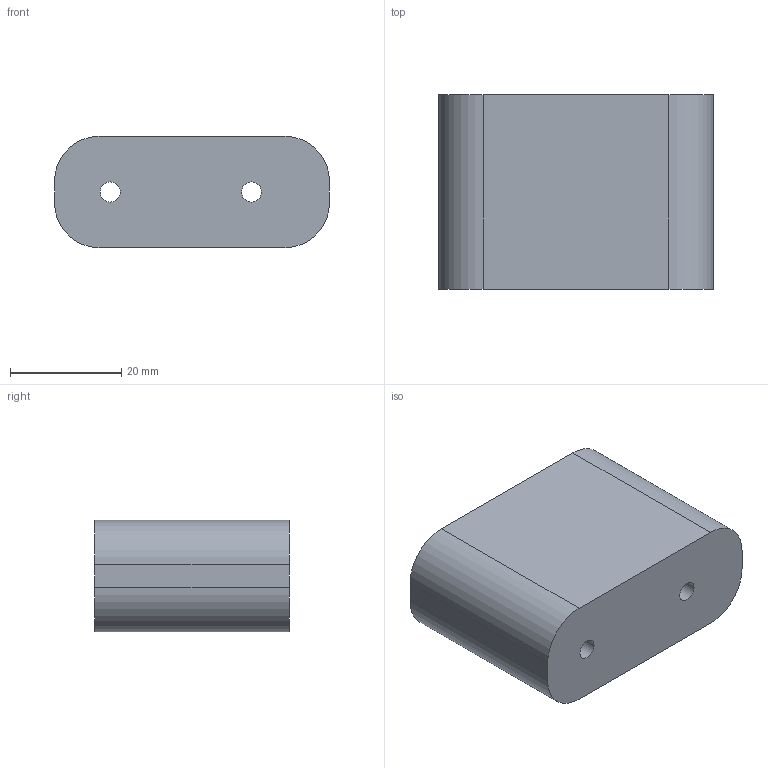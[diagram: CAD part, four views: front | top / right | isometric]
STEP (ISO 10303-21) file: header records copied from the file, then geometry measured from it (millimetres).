
FILE_DESCRIPTION(('STEP AP242 Edition 2','STEP AP242 Edition 2''CAx-IF Rec.Pracs.---Representation and Presentation of Product Manufacturing Information (PMI)---4.0---2014-10-13','STEP AP242 Edition 2''CAx-IF Rec.Pracs.---Representation and Presentation of Product Manufacturing Information (PMI)---4.0---2014-10-13''CAx-IF Rec.Pracs.---3D Tessellated Geometry---0.4---2014-09-14','STEP AP242 Edition 2''CAx-IF Rec.Pracs.---Representation and Presentation of Product Manufacturing Information (PMI)---4.0---2014-10-13''CAx-IF Rec.Pracs.---3D Tessellated Geometry---0.4---2014-09-14''2;1','STEP AP242 Edition 2''CAx-IF Rec.Pracs.---Representation and Presentation of Product Manufacturing Information (PMI)---4.0---2014-10-13''CAx-IF Rec.Pracs.---3D Tessellated Geometry---0.4---2014-09-14''2;1''CAx-IF Rec.Pracs.---User Defined Attributes---1.5---2016-08-15'),'2;1');
FILE_NAME('/vol/tmp/translate-7214305331587419635/bigPotConnector - cChannelConnector.step','2026-03-05T22:40:28',(''),(''),'ST-DEVELOPER v20','ONSHAPE BY PTC INC, 1.211',' ');
FILE_SCHEMA(('AP242_MANAGED_MODEL_BASED_3D_ENGINEERING_MIM_LF { 1 0 10303 442 3 1 4 }'));
Length unit declared in the file: metre
Products named in the file (1): cChannelConnector
Bounding box: 49.4 x 35 x 20 mm (x, y, z)
Volume: 31346.4 mm3; surface area: 7514.6 mm2
Topology: 1 solids, 1 shells, 16 faces, 36 edges, 24 vertices
Faces by surface type: plane 8, cylinder 8
Full cylindrical faces by diameter (mm): 3.6 x2, 4.6 x2
Entity records: 466 total; most frequent: DIRECTION 82, CARTESIAN_POINT 73, ORIENTED_EDGE 64, AXIS2_PLACEMENT_3D 33, EDGE_CURVE 32, EDGE_LOOP 26, FACE_BOUND 26, VERTEX_POINT 24
